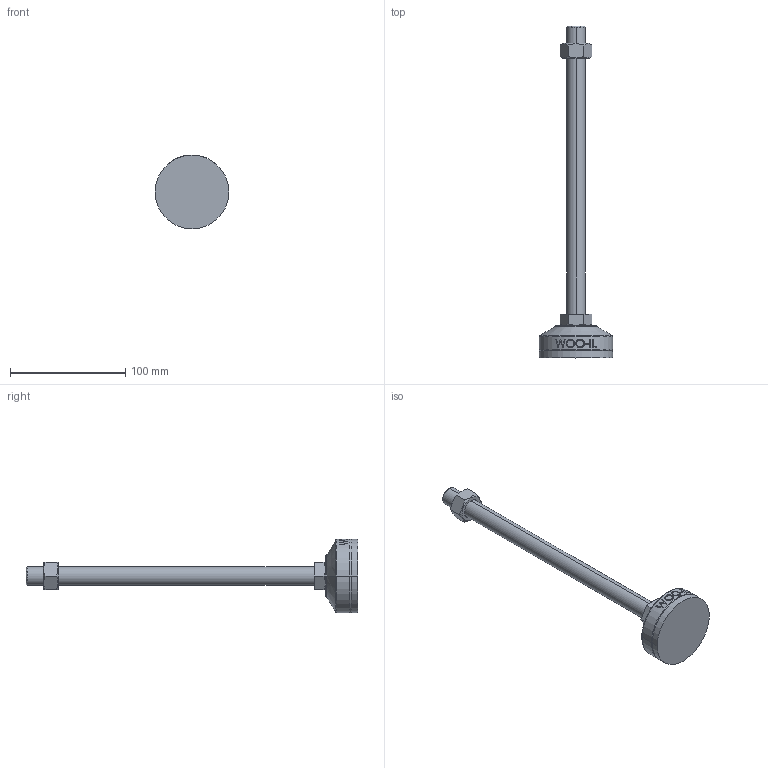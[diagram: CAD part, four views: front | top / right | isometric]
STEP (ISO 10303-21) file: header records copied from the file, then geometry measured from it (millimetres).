
FILE_DESCRIPTION (( 'STEP AP214' ), '1' );
FILE_NAME ('MFZR64-M16-250.step', '2021-03-29T06:56:14', ( '' ), ( '' ), 'SwSTEP 2.0', 'SolidWorks 2019', '' );
FILE_SCHEMA (( 'AUTOMOTIVE_DESIGN' ));
Length unit declared in the file: millimetre
Products named in the file (2): MFZR64-M16-250
Bounding box: 64 x 288 x 64 mm (x, y, z)
Volume: 137389.5 mm3; surface area: 33596.5 mm2
Topology: 4 solids, 4 shells, 103 faces, 235 edges, 150 vertices
Faces by surface type: plane 49, cylinder 18, bspline 16, cone 14, torus 6
Entity records: 4435 total; most frequent: CARTESIAN_POINT 2162, ORIENTED_EDGE 470, DIRECTION 417, EDGE_CURVE 235, AXIS2_PLACEMENT_3D 159, VERTEX_POINT 150, EDGE_LOOP 115, FACE_OUTER_BOUND 103
